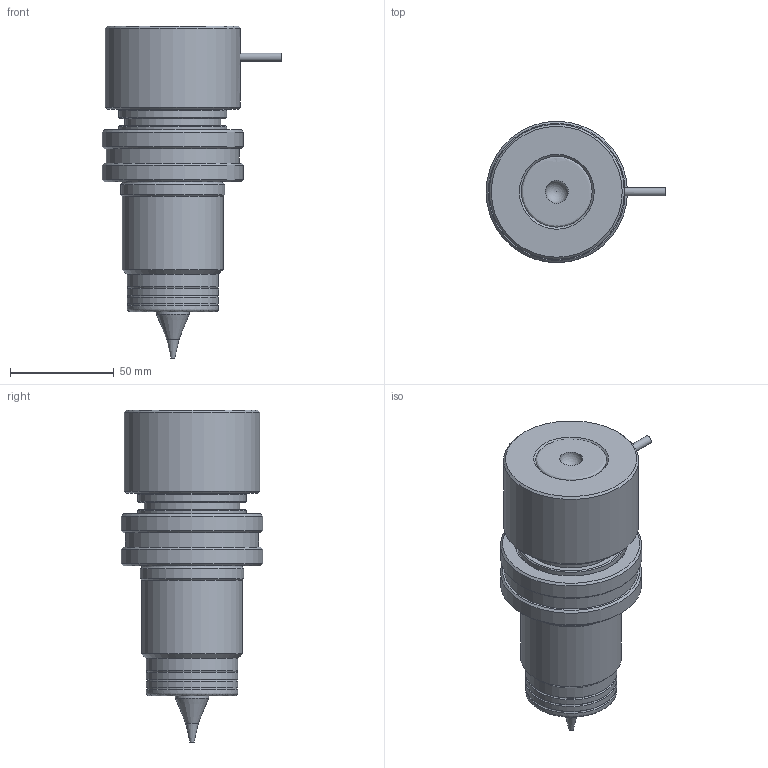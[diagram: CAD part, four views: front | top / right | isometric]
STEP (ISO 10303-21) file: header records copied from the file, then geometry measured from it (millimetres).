
FILE_DESCRIPTION(('STEP AP214'),'1');
FILE_NAME('IPM3000-A.stp','2018-06-13T08:30:59',(' '),(' '),'Spatial InterOp 3D',' ',' ');
FILE_SCHEMA(('AUTOMOTIVE_DESIGN { 1 0 10303 214 1 1 1 1 }'));
Length unit declared in the file: millimetre
Products named in the file (1): 1
Bounding box: 86.5 x 68 x 159.7 mm (x, y, z)
Volume: 298845.4 mm3; surface area: 73334.4 mm2
Topology: 4 solids, 4 shells, 86 faces, 160 edges, 93 vertices
Faces by surface type: cylinder 27, cone 24, plane 21, revolution 8, torus 5, sphere 1
Full cylindrical faces by diameter (mm): 4 x1, 6.55 x1, 7 x1, 9.6 x1, 10 x1, 10.01 x1, 16 x2, 34 x1, 37 x2, 44 x3, 46 x2, 48.5 x1, 50 x1, 51 x1, 52 x4, 64 x1, 65 x1, 68 x2
Entity records: 2699 total; most frequent: CARTESIAN_POINT 530, DIRECTION 336, EDGE_LOOP 170, ORIENTED_EDGE 170, AXIS2_PLACEMENT_3D 164, FACE_OUTER_BOUND 126, STYLED_ITEM 86, PRESENTATION_STYLE_ASSIGNMENT 86
